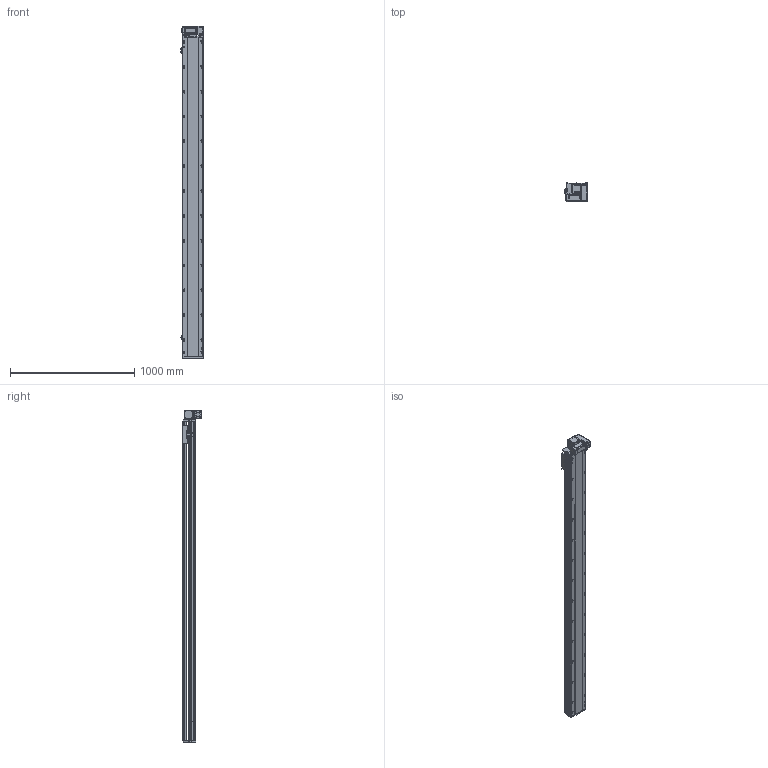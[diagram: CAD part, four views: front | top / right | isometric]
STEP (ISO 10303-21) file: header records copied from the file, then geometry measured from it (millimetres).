
FILE_DESCRIPTION (( 'STEP AP214' ), '1' );
FILE_NAME ('RTB17S-XX-2300-RM-M40-C4.STEP', '2025-12-11T08:28:24', ( '' ), ( '' ), 'SwSTEP 2.0', 'SolidWorks 2018', '' );
FILE_SCHEMA (( 'AUTOMOTIVE_DESIGN' ));
Length unit declared in the file: millimetre
Products named in the file (14): RTB17S-XX-2300-RM-M40-C4; RTB17S-L-014-T20--々湍釱^RTB17S-RM-々湍釱蚾饜-400W_RTB17S-XX-XX-RM-M40-C4; RTB17S-RM-々湍釱蚾饜-400W^RTB17S-XX-XX-RM-M40-C4; RTB17S-L-007奻裔^RTB17S-XX-XX-RM-M40-C4; RTB17S-L-004佪裝蹟譫蟀諉釱^RTB17S-XX-XX-RM-M40-C4; 400W侜督萇儂^RTB17S-XX-XX-RM-M40-C4; RTB17-R-011菁釱^RTB17S-XX-XX-RM-M40-C4; OMRON EE-SX672 传感器^RTB17S-XX-XX-RM-M40-C4; RTH13-BL-012覜茼え俋离^RTB17S-XX-XX-RM-M40-C4; RTB14-L-017P^RTB17S-RM-々湍釱蚾饜-400W_RTB17S-XX-XX-RM-M40-C4; RTB17S-L-001耜醱啣^RTB17S-XX-XX-RM-M40-C4; RTB14-L-005P--轴承塑胶压盖^RTB17S-RM-皮带座装配-400W_RTB17S-XX-XX-RM-M40-C4; RTB14-L-018P^RTB17S-RM-々湍釱蚾饜-400W_RTB17S-XX-XX-RM-M40-C4; RTB14-L-008-M20--萇儂啣^RTB17S-RM-々湍釱蚾饜-400W_RTB17S-XX-XX-RM-M40-C4
Assembly tree (16 placements, depth 3):
  RTB17S-XX-2300-RM-M40-C4
    RTB17-R-011菁釱^RTB17S-XX-XX-RM-M40-C4
    RTB17S-L-007奻裔^RTB17S-XX-XX-RM-M40-C4
    OMRON EE-SX672 传感器^RTB17S-XX-XX-RM-M40-C4  x3
    RTB17S-L-001耜醱啣^RTB17S-XX-XX-RM-M40-C4
    400W侜督萇儂^RTB17S-XX-XX-RM-M40-C4
    RTB17S-L-004佪裝蹟譫蟀諉釱^RTB17S-XX-XX-RM-M40-C4
    RTH13-BL-012覜茼え俋离^RTB17S-XX-XX-RM-M40-C4
    RTB17S-RM-々湍釱蚾饜-400W^RTB17S-XX-XX-RM-M40-C4
      RTB17S-L-014-T20--々湍釱^RTB17S-RM-々湍釱蚾饜-400W_RTB17S-XX-XX-RM-M40-C4
      RTB14-L-005P--轴承塑胶压盖^RTB17S-RM-皮带座装配-400W_RTB17S-XX-XX-RM-M40-C4
      RTB14-L-008-M20--萇儂啣^RTB17S-RM-々湍釱蚾饜-400W_RTB17S-XX-XX-RM-M40-C4
      RTB14-L-017P^RTB17S-RM-々湍釱蚾饜-400W_RTB17S-XX-XX-RM-M40-C4  x2
      RTB14-L-018P^RTB17S-RM-々湍釱蚾饜-400W_RTB17S-XX-XX-RM-M40-C4
Bounding box: 183.5 x 156.5 x 2672.5 mm (x, y, z)
Volume: 22973120.9 mm3; surface area: 2655042.9 mm2
Topology: 15 solids, 15 shells, 2317 faces, 6465 edges, 4221 vertices
Faces by surface type: plane 1082, cylinder 787, bspline 301, cone 139, torus 8
Entity records: 68009 total; most frequent: CARTESIAN_POINT 19270, ORIENTED_EDGE 9774, DIRECTION 9026, EDGE_CURVE 4887, VERTEX_POINT 3209, AXIS2_PLACEMENT_3D 3139, VECTOR 2748, LINE 2748
